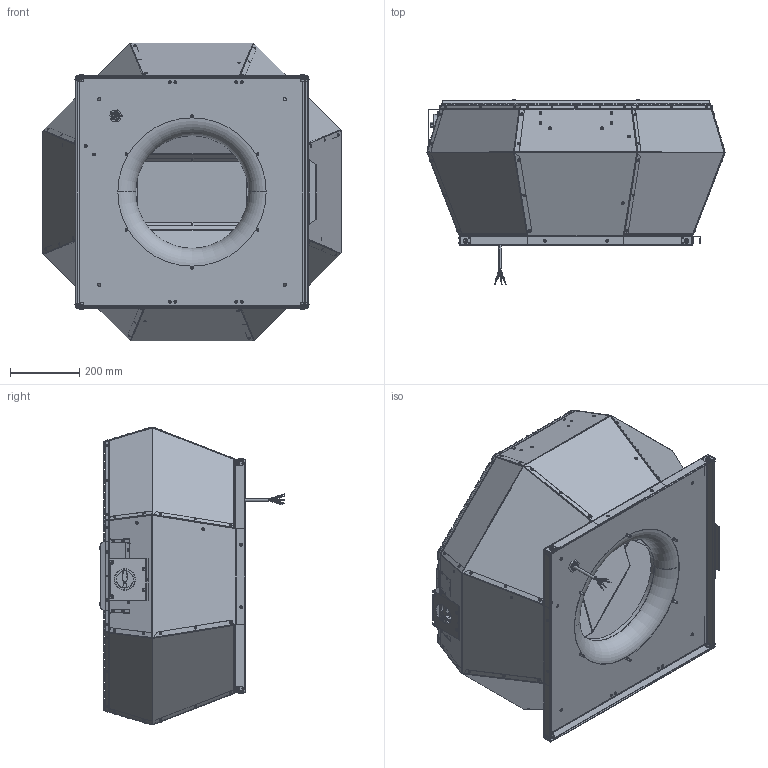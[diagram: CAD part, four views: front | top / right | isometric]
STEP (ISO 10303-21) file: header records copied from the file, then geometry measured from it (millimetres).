
FILE_DESCRIPTION (( 'STEP AP203' ), '1' );
FILE_NAME ('139228-00_DVA500ECP31.STEP', '2017-03-28T09:31:16', ( '' ), ( '' ), 'SwSTEP 2.0', 'SolidWorks 2012', '' );
FILE_SCHEMA (( 'CONFIG_CONTROL_DESIGN' ));
Products named in the file (1): 139228-00_DVA500ECP31
Bounding box: 860.46 x 535.67 x 860.13 mm (x, y, z)
Surface area: 4697479.3 mm2 (no closed solid volume)
Topology: 0 solids, 293 shells, 4301 faces, 14997 edges, 10385 vertices
Faces by surface type: plane 3098, cylinder 676, torus 437, bspline 70, cone 20
Entity records: 166345 total; most frequent: CARTESIAN_POINT 35095, DIRECTION 26116, ORIENTED_EDGE 25033, EDGE_CURVE 14997, LINE 10948, VECTOR 10948, VERTEX_POINT 10385, AXIS2_PLACEMENT_3D 7584
